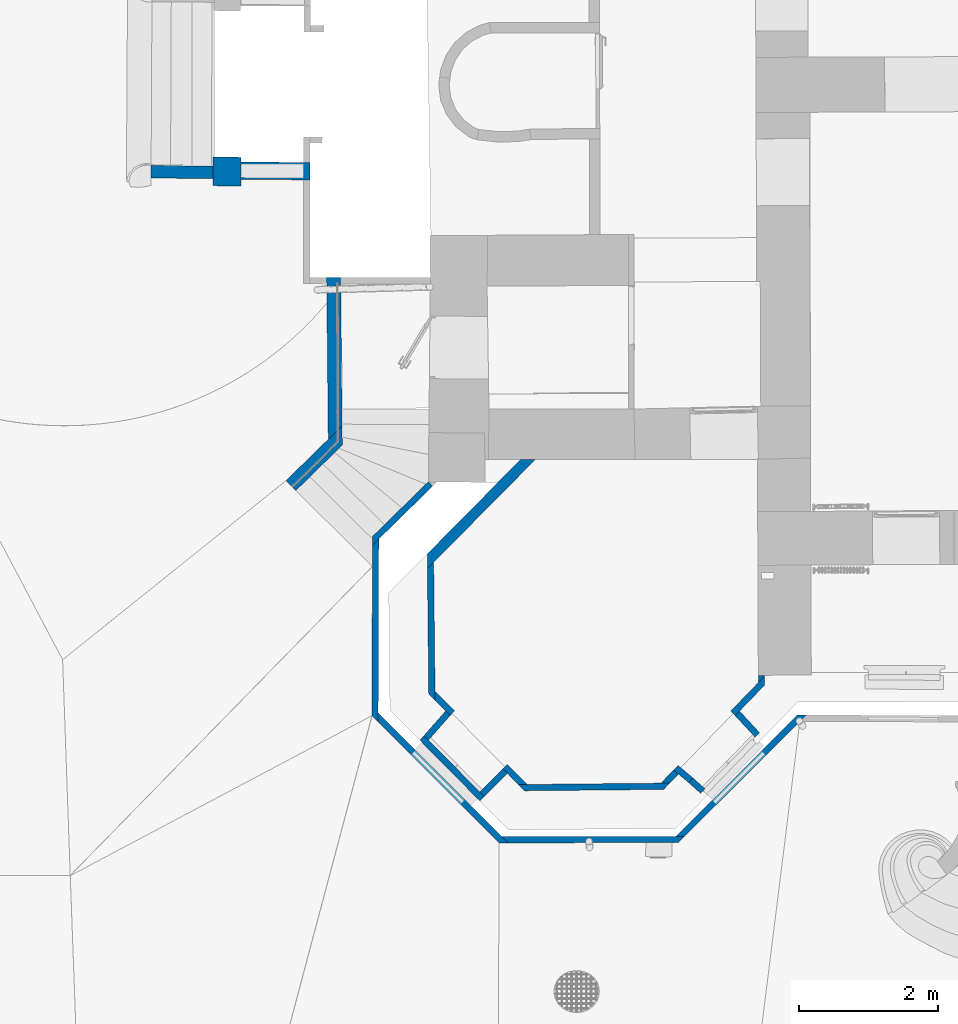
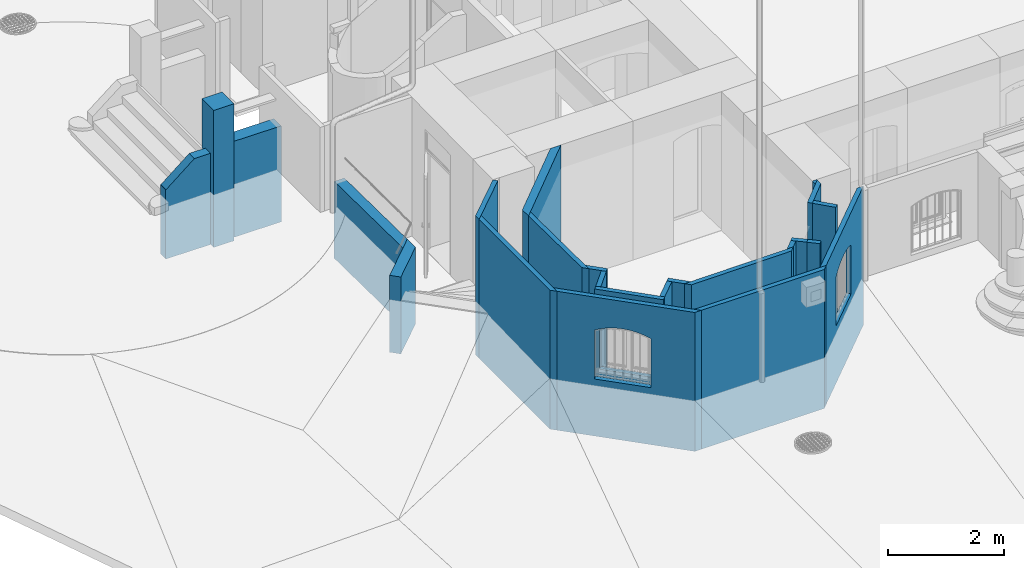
# One storey, part 9 of 133: 24 walls, 3 openings.
"""IFC2X3 building model written with IfcOpenShell, lengths in centimetres."""

import ifcopenshell
import ifcopenshell.guid

model = None  # the IFC model being written
_history = None  # IfcOwnerHistory: only IFC2X3 demands one
_inside = {}  # id of a spatial element -> (the spatial element, [elements in it])
_under = {}  # id of a project, library or spatial element -> (it, [spatial elements below it])
_declared = {}  # id of a project -> (the project, [libraries it declares])
_typed = {}  # id of a type object -> (the type object, [elements of that type])
_made_of = {}  # id of a material, layer set ... -> (it, [elements and type objects made of it])


def new_model(schema):
    """Start an empty IFC model of exactly this schema.

    Asked for "IFC4X3", IfcOpenShell would pick the latest addendum, in which some entities
    have other attributes; the version numbers below select the first issue.
    IFC2X3 requires an IfcOwnerHistory on every rooted entity: one is made here for all.
    """
    global model, _history
    if schema == "IFC4X3":
        model = ifcopenshell.file(schema_version=(4, 3, 0, 0))
    else:
        model = ifcopenshell.file(schema=schema)
    _inside.clear()
    _under.clear()
    _declared.clear()
    _typed.clear()
    _made_of.clear()
    _history = None
    if model.schema == "IFC2X3":
        org = make("IfcOrganization", Name="unknown")
        user = make(
            "IfcPersonAndOrganization",
            ThePerson=make("IfcPerson", FamilyName="unknown"),
            TheOrganization=org,
        )
        app = make(
            "IfcApplication",
            ApplicationDeveloper=org,
            Version="unknown",
            ApplicationFullName="unknown",
            ApplicationIdentifier="unknown",
        )
        _history = make(
            "IfcOwnerHistory",
            OwningUser=user,
            OwningApplication=app,
            ChangeAction="ADDED",
            CreationDate=0,
        )
    return model


def make(cls, **values):
    """One entity of the class cls with the attributes given. An attribute that is None is left unset."""
    return model.create_entity(
        cls, **{name: value for name, value in values.items() if value is not None}
    )


def entity(cls, *values):
    """Any entity or typed value of the class cls, its attributes in the order of the schema. None: left unset."""
    e = model.create_entity(cls)
    for i, value in enumerate(values):
        if value is not None:
            e[i] = value
    return e


def rooted(cls, **values):
    """An entity with a GlobalId (a new one), such as an element, a storey or a relation."""
    return make(cls, GlobalId=ifcopenshell.guid.new(), OwnerHistory=_history, **values)


def si_unit(unit_type, name, prefix=None):
    """IfcSIUnit, for example si_unit("LENGTHUNIT", "METRE", prefix="MILLI")."""
    return make("IfcSIUnit", UnitType=unit_type, Prefix=prefix, Name=name)


def converted_unit(unit_type, name, factor, base, dimensions=None, offset=None):
    """IfcConversionBasedUnit, such as the inch: factor (a typed value) times the base unit."""
    return make(
        "IfcConversionBasedUnit"
        if offset is None
        else "IfcConversionBasedUnitWithOffset",
        ConversionOffset=offset,
        Dimensions=None
        if dimensions is None
        else entity("IfcDimensionalExponents", *dimensions),
        UnitType=unit_type,
        Name=name,
        ConversionFactor=make(
            "IfcMeasureWithUnit", ValueComponent=factor, UnitComponent=base
        ),
    )


def assignment(units):
    """IfcUnitAssignment: the units of a project."""
    return None if units is None else make("IfcUnitAssignment", Units=units)


def point(xyz):
    """IfcCartesianPoint."""
    return None if xyz is None else make("IfcCartesianPoint", Coordinates=xyz)


def direction(xyz):
    """IfcDirection."""
    return None if xyz is None else make("IfcDirection", DirectionRatios=xyz)


def frame(location, z_axis=None, x_axis=None):
    """IfcAxis2Placement3D, a coordinate frame: its origin and axes. An axis left out is left unset."""
    return make(
        "IfcAxis2Placement3D",
        Location=point(location),
        Axis=direction(z_axis),
        RefDirection=direction(x_axis),
    )


def frame_2d(location, x_axis=None):
    """IfcAxis2Placement2D, a coordinate frame in the plane: its origin and x axis."""
    return make(
        "IfcAxis2Placement2D", Location=point(location), RefDirection=direction(x_axis)
    )


def origin():
    """The frame at (0, 0, 0) with its axes left unset."""
    return frame((0.0, 0.0, 0.0))


def origin_with_axes():
    """The frame at (0, 0, 0) with the z axis (0, 0, 1) and the x axis (1, 0, 0) written out."""
    return frame((0.0, 0.0, 0.0), z_axis=(0.0, 0.0, 1.0), x_axis=(1.0, 0.0, 0.0))


def origin_2d_with_axis():
    """The frame at (0, 0) in the plane with the x axis (1, 0) written out."""
    return frame_2d((0.0, 0.0), x_axis=(1.0, 0.0))


def place(relative_to, where):
    """IfcLocalPlacement: puts the frame where relative to a parent placement (None: the world)."""
    return make(
        "IfcLocalPlacement", PlacementRelTo=relative_to, RelativePlacement=where
    )


def context(
    kind, dimensions, precision=None, world=None, true_north=None, identifier=None
):
    """IfcGeometricRepresentationContext, for example the 3D "Model" context."""
    return make(
        "IfcGeometricRepresentationContext",
        ContextIdentifier=identifier,
        ContextType=kind,
        CoordinateSpaceDimension=dimensions,
        Precision=precision,
        WorldCoordinateSystem=world,
        TrueNorth=true_north,
    )


def subcontext(parent, identifier, kind, view, scale=None):
    """IfcGeometricRepresentationSubContext, for example "Body" below "Model"."""
    return make(
        "IfcGeometricRepresentationSubContext",
        ContextIdentifier=identifier,
        ContextType=kind,
        ParentContext=parent,
        TargetScale=scale,
        TargetView=view,
    )


def project(units=None, contexts=None):
    """IfcProject with its units and contexts."""
    return rooted(
        "IfcProject",
        Name="project",
        RepresentationContexts=contexts,
        UnitsInContext=assignment(units),
    )


def spatial(cls, under=None, at=None, **own):
    """A site, building, storey or space (cls), placed at a placement, below another one or the project."""
    s = rooted(cls, ObjectPlacement=at, **own)
    if under is not None:
        _under.setdefault(under.id(), (under, []))[1].append(s)
    return s


def polyline(points):
    """IfcPolyline through the points."""
    return make("IfcPolyline", Points=[point(p) for p in points])


def circle_curve(where, radius):
    """IfcCircle in the frame where."""
    return make("IfcCircle", Position=where, Radius=radius)


def trimmed(basis, trim1, trim2, sense, master):
    """IfcTrimmedCurve: the piece of a basis curve between two trims."""
    return make(
        "IfcTrimmedCurve",
        BasisCurve=basis,
        Trim1=trim1,
        Trim2=trim2,
        SenseAgreement=sense,
        MasterRepresentation=master,
    )


def segment(curve, same_sense, transition):
    """IfcCompositeCurveSegment."""
    return make(
        "IfcCompositeCurveSegment",
        Transition=transition,
        SameSense=same_sense,
        ParentCurve=curve,
    )


def composite_curve(segments, self_intersect=None):
    """IfcCompositeCurve: segments joined end to end."""
    return make("IfcCompositeCurve", Segments=segments, SelfIntersect=self_intersect)


def profile(cls, at=None, kind="AREA", **sizes):
    """A parametric profile (cls). Its sizes go by their IFC names, for example OverallWidth=200.0."""
    return make(cls, ProfileType=kind, Position=at, **sizes)


def rectangle(**sizes):
    """IfcRectangleProfileDef."""
    return profile("IfcRectangleProfileDef", **sizes)


def outline(outer, holes=None, kind="AREA"):
    """IfcArbitraryClosedProfileDef: a profile drawn as a closed curve; with holes, ...WithVoids."""
    if holes is None:
        return make("IfcArbitraryClosedProfileDef", ProfileType=kind, OuterCurve=outer)
    return make(
        "IfcArbitraryProfileDefWithVoids",
        ProfileType=kind,
        OuterCurve=outer,
        InnerCurves=holes,
    )


def extrude(swept, where, along, depth):
    """IfcExtrudedAreaSolid: the profile swept, set in the frame where, extruded along a direction by depth."""
    return make(
        "IfcExtrudedAreaSolid",
        SweptArea=swept,
        Position=where,
        ExtrudedDirection=direction(along),
        Depth=depth,
    )


def clip(a, b, op="DIFFERENCE"):
    """IfcBooleanClippingResult: the solid a cut by the half space b."""
    return make(
        "IfcBooleanClippingResult", Operator=op, FirstOperand=a, SecondOperand=b
    )


def bounded_halfspace(plane, agree, where, boundary):
    """IfcPolygonalBoundedHalfSpace: a half space limited to a polygon's prism."""
    return make(
        "IfcPolygonalBoundedHalfSpace",
        BaseSurface=make("IfcPlane", Position=plane),
        AgreementFlag=agree,
        Position=where,
        PolygonalBoundary=boundary,
    )


def shape(context_of_items, identifier, shape_type, items):
    """IfcShapeRepresentation: the items that make up one representation, for example the "Body"."""
    return make(
        "IfcShapeRepresentation",
        ContextOfItems=context_of_items,
        RepresentationIdentifier=identifier,
        RepresentationType=shape_type,
        Items=items,
    )


def material(Name=None, Category=None):
    """IfcMaterial."""
    return make("IfcMaterial", Name=Name, Category=Category)


def layer(
    of_material, thickness, ventilated=None, Name=None, Category=None, Priority=None
):
    """IfcMaterialLayer: one layer of a wall or slab, of a material (None: an air gap)."""
    return make(
        "IfcMaterialLayer",
        Material=of_material,
        LayerThickness=thickness,
        IsVentilated=ventilated,
        Name=Name,
        Category=Category,
        Priority=Priority,
    )


def layer_set(layers, Name=None):
    """IfcMaterialLayerSet."""
    return make("IfcMaterialLayerSet", MaterialLayers=layers, LayerSetName=Name)


def layer_usage(for_layer_set, set_direction, sense, offset, extent=None):
    """IfcMaterialLayerSetUsage: how a layer set lies in its element."""
    return make(
        "IfcMaterialLayerSetUsage",
        ForLayerSet=for_layer_set,
        LayerSetDirection=set_direction,
        DirectionSense=sense,
        OffsetFromReferenceLine=offset,
        ReferenceExtent=extent,
    )


def made_of(thing, what):
    """Note that an element or type object is made of a material, layer set ...; save() writes the relation."""
    if what is not None:
        _made_of.setdefault(what.id(), (what, []))[1].append(thing)
    return thing


def type_object(cls, material=None, **own):
    """A type object (cls), such as IfcWallType, which elements share."""
    return made_of(rooted(cls, **own), material)


def element(
    cls,
    number,
    at=None,
    inside=None,
    cuts=None,
    type_object=None,
    material=None,
    context=None,
    identifier="Body",
    shape_type=None,
    held_by="IfcProductDefinitionShape",
    body=None,
    shapes=None,
    **own,
):
    """One element of the class cls, such as IfcWall. Its Tag is "e" and its number.

    at: its placement. inside: the storey or other place that contains it. cuts: it is an
    opening in that element (IfcRelVoidsElement). A single representation is given by context,
    identifier, shape_type and body (its items); several are given by shapes. held_by: the class
    of the entity that holds the representations. save() writes the other relations.
    """
    e = rooted(cls, Tag="e%d" % number, ObjectPlacement=at, **own)
    if body is not None:
        shapes = [shape(context, identifier, shape_type, body)]
    if shapes is not None:
        e.Representation = make(held_by, Representations=shapes)
    if inside is not None:
        _inside.setdefault(inside.id(), (inside, []))[1].append(e)
    if cuts is not None:
        rooted(
            "IfcRelVoidsElement", RelatingBuildingElement=cuts, RelatedOpeningElement=e
        )
    if type_object is not None:
        _typed.setdefault(type_object.id(), (type_object, []))[1].append(e)
    return made_of(e, material)


def aggregate(whole, parts):
    """IfcRelAggregates: a whole, such as a stair, and the parts it consists of."""
    return rooted("IfcRelAggregates", RelatingObject=whole, RelatedObjects=parts)


def save(model, path):
    """Write the relations noted so far, then the file.

    IfcRelAggregates (storeys below a building ...), IfcRelContainedInSpatialStructure (elements
    in a storey), IfcRelDefinesByType, IfcRelAssociatesMaterial and IfcRelDeclares: one each for
    every whole, place, type object, material and project.
    """
    for whole, parts in _under.values():
        aggregate(whole, parts)
    for where, things in _inside.values():
        rooted(
            "IfcRelContainedInSpatialStructure",
            RelatedElements=things,
            RelatingStructure=where,
        )
    for kind, things in _typed.values():
        rooted("IfcRelDefinesByType", RelatedObjects=things, RelatingType=kind)
    for what, things in _made_of.values():
        rooted("IfcRelAssociatesMaterial", RelatedObjects=things, RelatingMaterial=what)
    for by, libraries in _declared.values():
        rooted("IfcRelDeclares", RelatingContext=by, RelatedDefinitions=libraries)
    model.write(path)


model = new_model("IFC2X3")

# Units and contexts
model_context = context("Model", 3, precision=0.0001, world=origin(), true_north=direction((0.225632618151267, 0.974212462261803, 0.0)))
body_context = subcontext(model_context, "Body", "Model", "MODEL_VIEW")
footprint_context = subcontext(model_context, "FootPrint", "Model", "MODEL_VIEW")
profile_context = subcontext(model_context, "Profile", "Model", "MODEL_VIEW")
ifc_project = project(units=[si_unit("LENGTHUNIT", "METRE", prefix="CENTI"), si_unit("AREAUNIT", "SQUARE_METRE", prefix="CENTI"), si_unit("VOLUMEUNIT", "CUBIC_METRE", prefix="CENTI"), converted_unit("PLANEANGLEUNIT", "DEGREE", entity("IfcRatioMeasure", 0.0174532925), si_unit("PLANEANGLEUNIT", "RADIAN"), dimensions=[0, 0, 0, 0, 0, 0, 0])], contexts=[model_context])

# Site, building, storey
site_placement = place(None, origin_with_axes())
site = spatial("IfcSite", under=ifc_project, at=site_placement, Name="Default Site", CompositionType="ELEMENT")
building_placement = place(site_placement, origin_with_axes())
building = spatial("IfcBuilding", under=site, at=building_placement, Name="Default Building", CompositionType="ELEMENT")
storey_placement = place(building_placement, frame((0.0, 0.0, -291.400371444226), z_axis=(0.0, 0.0, 1.0), x_axis=(1.0, 0.0, 0.0)))
storey = spatial("IfcBuildingStorey", under=building, at=storey_placement, Name="Rez-de-Jardin", CompositionType="ELEMENT", Elevation=-291.400371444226)

# Walls
ifc_material = material(Name="<aucun>")
ifc_layer_1 = layer(ifc_material, 25.0)
ifc_layer_set_1 = layer_set([ifc_layer_1], Name="default")
ifc_layer_usage_1 = layer_usage(ifc_layer_set_1, "AXIS2", "POSITIVE", -12.5)
wall_type_1 = type_object("IfcWallType", Name="default 250", PredefinedType="NOTDEFINED", material=ifc_layer_set_1)
wall_1_placement = place(storey_placement, frame((-1368.51239183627, -188.336100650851, -1.94511073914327e-11), z_axis=(0.0, 0.0, 1.0), x_axis=(-0.999984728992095, 0.0055264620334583, 0.0)))
element("IfcWallStandardCase", 1, at=wall_1_placement, inside=storey, type_object=wall_type_1, material=ifc_layer_usage_1, Name="Enveloppe 311643", context=body_context, shape_type="SweptSolid", body=[
    extrude(outline(polyline([(89.5219627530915, 12.5), (-9.01157871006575, 12.5), (-8.87378574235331, -12.5), (89.5219627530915, -12.5), (89.5219627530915, 12.5)])), frame((0.0, 0.0, 1.77635683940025e-13), z_axis=(0.0, 0.0, 1.0), x_axis=(1.0, 0.0, 0.0)), (0.0, 0.0, 1.0), 201.400371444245),
])
ifc_layer_2 = layer(ifc_material, 9.0)
ifc_layer_set_2 = layer_set([ifc_layer_2], Name="default")
ifc_layer_usage_2 = layer_usage(ifc_layer_set_2, "AXIS2", "POSITIVE", -4.5)
wall_type_2 = type_object("IfcWallType", Name="default 90", PredefinedType="NOTDEFINED", material=ifc_layer_set_2)
wall_2_placement = place(storey_placement, frame((-1155.4528827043, -965.435275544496, -1.94511073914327e-11), z_axis=(0.0, 0.0, 1.0), x_axis=(-0.702860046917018, 0.711328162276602, 0.0)))
element("IfcWallStandardCase", 2, at=wall_2_placement, inside=storey, type_object=wall_type_2, material=ifc_layer_usage_2, Name="Enveloppe 583646", context=body_context, shape_type="SweptSolid", body=[
    extrude(outline(polyline([(39.4833883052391, -4.4999999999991), (30.1770155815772, 4.50000000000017), (-0.604139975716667, 4.50000000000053), (0.000166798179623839, -4.49999999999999), (39.4833883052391, -4.4999999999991)])), frame((0.0, 0.0, 8.88178419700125e-14), z_axis=(0.0, 0.0, 1.0), x_axis=(1.0, 0.0, 0.0)), (0.0, 0.0, 1.0), 291.413221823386),
])
ifc_layer_usage_3 = layer_usage(ifc_layer_set_2, "AXIS2", "POSITIVE", -4.5)
wall_3_placement = place(storey_placement, frame((-1192.80429309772, -1001.31453889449, -1.94511073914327e-11), z_axis=(0.0, 0.0, 1.0), x_axis=(0.6626424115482, 0.748935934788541, 0.0)))
element("IfcWallStandardCase", 3, at=wall_3_placement, inside=storey, type_object=wall_type_2, material=ifc_layer_usage_3, Name="Enveloppe 583737", context=body_context, shape_type="SweptSolid", body=[
    extrude(outline(polyline([(1.77635683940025e-13, 4.49999999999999), (1.77635683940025e-13, -4.50000000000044), (47.0915342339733, -4.5000000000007), (47.6958410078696, 4.49999999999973), (1.77635683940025e-13, 4.49999999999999)])), frame((0.0, 0.0, 1.33226762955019e-13), z_axis=(0.0, 0.0, 1.0), x_axis=(1.0, 0.0, 0.0)), (0.0, 0.0, 1.0), 291.413221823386),
])
ifc_layer_usage_4 = layer_usage(ifc_layer_set_2, "AXIS2", "POSITIVE", -4.5)
wall_4_placement = place(storey_placement, frame((-1112.61900895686, -1081.96244786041, -1.94511073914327e-11), z_axis=(0.0, 0.0, 1.0), x_axis=(0.708538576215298, 0.705672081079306, 0.0)))
element("IfcWallStandardCase", 4, at=wall_4_placement, inside=storey, type_object=wall_type_2, material=ifc_layer_usage_4, Name="Enveloppe 584301", context=body_context, shape_type="SweptSolid", body=[
    extrude(outline(polyline([(1.77635683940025e-13, 4.50000000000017), (-0.0326793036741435, -4.49999999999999), (46.9158967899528, -4.49999999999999), (46.9515457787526, 4.50000000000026), (1.77635683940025e-13, 4.50000000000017)])), frame((0.0, 0.0, 8.88178419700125e-14), z_axis=(0.0, 0.0, 1.0), x_axis=(1.0, 0.0, 0.0)), (0.0, 0.0, 1.0), 291.413221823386),
])
ifc_layer_usage_5 = layer_usage(ifc_layer_set_2, "AXIS2", "POSITIVE", -4.5)
wall_5_placement = place(storey_placement, frame((-752.480776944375, -965.692787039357, -1.94511073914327e-11), z_axis=(0.0, 0.0, 1.0), x_axis=(0.695562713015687, 0.718465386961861, 0.0)))
element("IfcWallStandardCase", 5, at=wall_5_placement, inside=storey, type_object=wall_type_2, material=ifc_layer_usage_5, Name="Enveloppe 584799", context=body_context, shape_type="SweptSolid", body=[
    extrude(outline(polyline([(-0.0243408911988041, 4.49999999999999), (-0.519998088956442, -4.50000000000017), (60.355476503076, -4.50000000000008), (69.5770575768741, 4.50000000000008), (-0.0243408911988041, 4.49999999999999)])), frame((0.0, 0.0, 8.88178419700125e-14), z_axis=(0.0, 0.0, 1.0), x_axis=(1.0, 0.0, 0.0)), (0.0, 0.0, 1.0), 291.413221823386),
])

# Wall, opening
ifc_layer_usage_6 = layer_usage(ifc_layer_set_2, "AXIS2", "POSITIVE", -4.5)
wall_6_placement = place(storey_placement, frame((-1115.81903084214, -1085.14952359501, -1.94511073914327e-11), z_axis=(0.0, 0.0, 1.0), x_axis=(-0.703094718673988, 0.711096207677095, 0.0)))
wall_6 = element("IfcWallStandardCase", 6, at=wall_6_placement, inside=storey, type_object=wall_type_2, material=ifc_layer_usage_6, Name="Enveloppe 583738", context=body_context, shape_type="SweptSolid", body=[
    extrude(outline(polyline([(117.671423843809, 4.49999999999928), (-4.516369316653, 4.49999999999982), (-4.48369001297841, -4.50000000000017), (109.252681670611, -4.50000000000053), (118.232660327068, -3.90001389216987), (117.671423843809, 4.49999999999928)])), frame((0.0, 0.0, 8.88178419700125e-14), z_axis=(0.0, 0.0, 1.0), x_axis=(1.0, 0.0, 0.0)), (0.0, 0.0, 1.0), 291.413221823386),
])
opening_1_placement = place(wall_6_placement, frame((4.51636931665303, 4.54747350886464e-13, 127.806008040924), z_axis=(0.0, 0.0, 1.0), x_axis=(-1.0, 3.99680288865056e-15, 0.0)))
cartesian_point_1 = entity("IfcCartesianPoint", [0.0, 0.0, 97.0])
cartesian_point_2 = entity("IfcCartesianPoint", [-104.736312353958, 0.0, 97.0])
cartesian_point_3 = entity("IfcCartesianPoint", [-104.736312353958, -4.49999999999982])
element("IfcOpeningElement", 7, at=opening_1_placement, cuts=wall_6, Name="4294966467_12", ObjectType="Opening", shapes=[
    shape(body_context, "Body", "SweptSolid", [extrude(outline(composite_curve([segment(polyline([(0.0, 97.0), (0.0, -3.00000000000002), (104.736312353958, -3.00000000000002), (104.736312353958, 97.0)]), True, "CONTINUOUS"), segment(trimmed(circle_curve(frame_2d((52.3681561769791, -65.0141772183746), x_axis=(1.0, 0.0)), 170.267487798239), [point((104.736312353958, 97.0))], [point((0.0, 97.0))], True, "CARTESIAN"), True, "CONTINUOUS")], self_intersect=False)), frame((0.0, -14.5000000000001, 0.0), z_axis=(0.0, 1.0, 0.0), x_axis=(-1.0, 0.0, 0.0)), (0.0, 0.0, 1.0), 29.0000000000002)]),
    shape(profile_context, "Profile", "GeometricCurveSet", [entity("IfcGeometricCurveSet", [entity("IfcCompositeCurve", [entity("IfcCompositeCurveSegment", "CONTINUOUS", True, entity("IfcPolyline", [cartesian_point_1, entity("IfcCartesianPoint", [0.0, 0.0, -2.22044604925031e-14]), entity("IfcCartesianPoint", [-104.736312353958, 0.0, -2.22044604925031e-14]), cartesian_point_2])), entity("IfcCompositeCurveSegment", "CONTINUOUS", True, entity("IfcTrimmedCurve", entity("IfcCircle", entity("IfcAxis2Placement3D", entity("IfcCartesianPoint", [-52.3681561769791, 0.0, -65.0141772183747]), entity("IfcDirection", [0.0, 1.0, 0.0]), entity("IfcDirection", [1.0, 0.0, 0.0])), 170.267487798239), [cartesian_point_2], [cartesian_point_1], True, "CARTESIAN"))], False)])]),
    shape(footprint_context, "FootPrint", "GeometricCurveSet", [entity("IfcGeometricCurveSet", [entity("IfcPolyline", [cartesian_point_3, entity("IfcCartesianPoint", [0.0, -4.49999999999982]), entity("IfcCartesianPoint", [8.88178419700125e-14, 4.50000000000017]), entity("IfcCartesianPoint", [-104.736312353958, 4.50000000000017]), cartesian_point_3])])]),
])

# Walls
ifc_layer_usage_7 = layer_usage(ifc_layer_set_2, "AXIS2", "POSITIVE", -4.5)
wall_7_placement = place(storey_placement, frame((-1050.93874594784, -1071.20860717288, -1.94511073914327e-11), z_axis=(0.0, 0.0, 1.0), x_axis=(-0.702860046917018, 0.711328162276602, 0.0)))
element("IfcWallStandardCase", 8, at=wall_7_placement, inside=storey, type_object=wall_type_2, material=ifc_layer_usage_7, Name="Enveloppe 583999", context=body_context, shape_type="SweptSolid", body=[
    extrude(outline(polyline([(40.3890210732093, 4.49999999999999), (8.78333523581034, 4.49999999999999), (0.063029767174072, -4.49999999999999), (40.424670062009, -4.49999999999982), (40.3890210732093, 4.49999999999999)])), frame((0.0, 0.0, 8.88178419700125e-14), z_axis=(0.0, 0.0, 1.0), x_axis=(1.0, 0.0, 0.0)), (0.0, 0.0, 1.0), 291.413221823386),
])
ifc_layer_usage_8 = layer_usage(ifc_layer_set_2, "AXIS2", "POSITIVE", -4.5)
wall_8_placement = place(storey_placement, frame((-813.166615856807, -1061.99418023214, -1.94511073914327e-11), z_axis=(0.0, 0.0, 1.0), x_axis=(-0.763639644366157, 0.645642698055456, 0.0)))
element("IfcWallStandardCase", 9, at=wall_8_placement, inside=storey, type_object=wall_type_2, material=ifc_layer_usage_8, Name="Enveloppe 585409", context=body_context, shape_type="SweptSolid", body=[
    extrude(outline(polyline([(28.2498008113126, 4.50000000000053), (0.134469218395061, 4.50000000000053), (-0.134409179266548, -4.49598268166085), (27.6428392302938, -4.49999999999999), (28.2498008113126, 4.50000000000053)])), frame((0.0, 0.0, 4.44089209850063e-14), z_axis=(0.0, 0.0, 1.0), x_axis=(1.0, 0.0, 0.0)), (0.0, 0.0, 1.0), 291.413221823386),
])
ifc_layer_usage_9 = layer_usage(ifc_layer_set_2, "AXIS2", "POSITIVE", -4.5)
wall_9_placement = place(storey_placement, frame((-852.736815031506, -1069.2499384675, -1.94511073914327e-11), z_axis=(0.0, 0.0, 1.0), x_axis=(0.695562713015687, 0.718465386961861, 0.0)))
element("IfcWallStandardCase", 10, at=wall_9_placement, inside=storey, type_object=wall_type_2, material=ifc_layer_usage_9, Name="Enveloppe 585672", context=body_context, shape_type="SweptSolid", body=[
    extrude(outline(polyline([(-0.00309921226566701, 4.4999999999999), (8.88241923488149, -4.49999999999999), (26.9528727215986, -4.50000000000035), (26.3459111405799, 4.49999999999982), (-0.00309921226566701, 4.4999999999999)])), frame((0.0, 0.0, 8.88178419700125e-14), z_axis=(0.0, 0.0, 1.0), x_axis=(1.0, 0.0, 0.0)), (0.0, 0.0, 1.0), 291.413221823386),
])
ifc_layer_usage_10 = layer_usage(ifc_layer_set_2, "AXIS2", "POSITIVE", -4.5)
wall_10_placement = place(storey_placement, frame((-717.753235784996, -997.001121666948, -1.94511073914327e-11), z_axis=(0.0, 0.0, 1.0), x_axis=(-0.679129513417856, 0.734018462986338, 0.0)))
element("IfcWallStandardCase", 11, at=wall_10_placement, inside=storey, type_object=wall_type_2, material=ifc_layer_usage_10, Name="Enveloppe 585148", context=body_context, shape_type="SweptSolid", body=[
    extrude(outline(polyline([(42.0436081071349, 4.49999999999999), (1.77635683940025e-13, 4.50000000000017), (3.5527136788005e-13, -4.50000000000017), (42.5392653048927, -4.50000000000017), (42.0436081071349, 4.49999999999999)])), frame((0.0, 0.0, 1.33226762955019e-13), z_axis=(0.0, 0.0, 1.0), x_axis=(1.0, 0.0, 0.0)), (0.0, 0.0, 1.0), 291.413221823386),
])
ifc_layer_usage_11 = layer_usage(ifc_layer_set_2, "AXIS2", "POSITIVE", -4.5)
wall_11_placement = place(storey_placement, frame((-795.835195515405, -1077.56160387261, -1.94511073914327e-11), z_axis=(0.0, 0.0, 1.0), x_axis=(-0.74400996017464, 0.668168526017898, 0.0)))
element("IfcWallStandardCase", 12, at=wall_11_placement, inside=storey, type_object=wall_type_2, material=ifc_layer_usage_11, Name="Enveloppe 585673", context=body_context, shape_type="SweptSolid", body=[
    extrude(outline(polyline([(23.2963818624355, 4.50000000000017), (0.336007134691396, 4.50000000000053), (-1.77635683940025e-13, -4.50000000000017), (23.2963818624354, -4.50000000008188), (23.2963818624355, 4.50000000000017)])), frame((0.0, 0.0, 8.88178419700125e-14), z_axis=(0.0, 0.0, 1.0), x_axis=(1.0, 0.0, 0.0)), (0.0, 0.0, 1.0), 291.413221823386),
])
ifc_layer_usage_12 = layer_usage(ifc_layer_set_2, "AXIS2", "POSITIVE", -4.5)
wall_12_placement = place(storey_placement, frame((-711.72941276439, -934.699164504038, -1.94511073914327e-11), z_axis=(0.0, 0.0, 1.0), x_axis=(-0.0040355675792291, 0.999991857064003, 0.0)))
element("IfcWallStandardCase", 13, at=wall_12_placement, inside=storey, type_object=wall_type_2, material=ifc_layer_usage_12, Name="Enveloppe 587913", context=body_context, shape_type="SweptSolid", body=[
    extrude(outline(polyline([(23.300431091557, 4.50000000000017), (12.8855561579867, 4.50000000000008), (22.1071372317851, -4.49999999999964), (23.3004310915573, -4.49999999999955), (23.300431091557, 4.50000000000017)])), frame((0.0, 0.0, 8.88178419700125e-14), z_axis=(0.0, 0.0, 1.0), x_axis=(1.0, 0.0, 0.0)), (0.0, 0.0, 1.0), 291.413221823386),
])
ifc_layer_usage_13 = layer_usage(ifc_layer_set_2, "AXIS2", "POSITIVE", -4.5)
wall_13_placement = place(storey_placement, frame((-1047.69413742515, -1072.5002566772, -1.94511073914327e-11), z_axis=(0.0, 0.0, 1.0), x_axis=(0.999952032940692, 0.00979447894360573, 0.0)))
element("IfcWallStandardCase", 14, at=wall_13_placement, inside=storey, type_object=wall_type_2, material=ifc_layer_usage_13, Name="Enveloppe 71423", context=body_context, shape_type="SweptSolid", body=[
    extrude(outline(polyline([(-12.5755687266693, 4.49999999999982), (-3.85526325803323, -4.49999999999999), (195.537058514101, -4.49999999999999), (204.422576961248, 4.49999999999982), (-12.5755687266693, 4.49999999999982)])), origin_with_axes(), (0.0, 0.0, 1.0), 291.413221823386),
])
ifc_layer_usage_14 = layer_usage(ifc_layer_set_2, "AXIS2", "POSITIVE", -4.5)
wall_14_placement = place(storey_placement, frame((-1184.50294680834, -934.234696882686, -1.94511073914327e-11), z_axis=(0.0, 0.0, 1.0), x_axis=(-0.0107461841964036, 0.999942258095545, 0.0)))
element("IfcWallStandardCase", 15, at=wall_14_placement, inside=storey, type_object=wall_type_2, material=ifc_layer_usage_14, Name="Enveloppe 71409", context=body_context, shape_type="SweptSolid", body=[
    extrude(outline(polyline([(175.918094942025, 4.49999999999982), (-3.64042051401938, 4.50000000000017), (-12.9467932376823, -4.50000000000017), (184.823272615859, -4.5000000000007), (175.918094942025, 4.49999999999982)])), frame((0.0, 0.0, 8.88178419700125e-14), z_axis=(0.0, 0.0, 1.0), x_axis=(1.0, 0.0, 0.0)), (0.0, 0.0, 1.0), 291.413221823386),
])
ifc_layer_3 = layer(ifc_material, 15.0)
ifc_layer_set_3 = layer_set([ifc_layer_3], Name="default")
ifc_layer_usage_15 = layer_usage(ifc_layer_set_3, "AXIS2", "POSITIVE", -7.5)
wall_type_3 = type_object("IfcWallType", Name="default 150", PredefinedType="NOTDEFINED", material=ifc_layer_set_3)
wall_15_placement = place(storey_placement, frame((-1187.31938654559, -744.097306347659, -1.94511073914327e-11), z_axis=(0.0, 0.0, 1.0), x_axis=(0.703242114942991, 0.71095043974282, 0.0)))
element("IfcWallStandardCase", 16, at=wall_15_placement, inside=storey, type_object=wall_type_3, material=ifc_layer_usage_15, Name="Enveloppe 71394", context=body_context, shape_type="SweptSolid", body=[
    extrude(outline(polyline([(2.17793601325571, 7.50000000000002), (-12.664026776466, -7.50000000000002), (207.473060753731, -7.49999999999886), (192.678701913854, 7.50000000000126), (2.17793601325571, 7.50000000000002)])), frame((0.0, 0.0, 1.33226762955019e-13), z_axis=(0.0, 0.0, 1.0), x_axis=(1.0, 0.0, 0.0)), (0.0, 0.0, 1.0), 291.413221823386),
])
ifc_layer_4 = layer(ifc_material, 20.0)
ifc_layer_set_4 = layer_set([ifc_layer_4], Name="default")
ifc_layer_usage_16 = layer_usage(ifc_layer_set_4, "AXIS2", "POSITIVE", -10.0)
wall_type_4 = type_object("IfcWallType", Name="default 200", PredefinedType="NOTDEFINED", material=ifc_layer_set_4)
wall_16_placement = place(storey_placement, frame((-1386.55697982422, -639.304594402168, -1.94511073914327e-11), z_axis=(0.0, 0.0, 1.0), x_axis=(0.714638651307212, 0.699493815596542, 0.0)))
element("IfcWallStandardCase", 17, at=wall_16_placement, inside=storey, type_object=wall_type_4, material=ifc_layer_usage_16, Name="Enveloppe 92396", context=body_context, shape_type="SweptSolid", body=[
    extrude(outline(polyline([(0.0, 9.99999999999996), (0.0, -10.0000000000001), (93.2388021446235, -9.9999999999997), (112.427461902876, 10.0000000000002), (0.0, 9.99999999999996)])), frame((0.0, 0.0, 8.88178419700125e-14), z_axis=(0.0, 0.0, 1.0), x_axis=(1.0, 0.0, 0.0)), (0.0, 0.0, 1.0), 161.400371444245),
])
ifc_layer_usage_17 = layer_usage(ifc_layer_set_4, "AXIS2", "POSITIVE", -10.0)
wall_17_placement = place(storey_placement, frame((-1322.92950087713, -581.329911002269, -1.94511073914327e-11), z_axis=(0.0, 0.0, 1.0), x_axis=(-0.00999110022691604, 0.99995008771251, 0.0)))
element("IfcWallStandardCase", 18, at=wall_17_placement, inside=storey, type_object=wall_type_4, material=ifc_layer_usage_17, Name="Enveloppe 92405", context=body_context, shape_type="SweptSolid", body=[
    extrude(outline(polyline([(240.591841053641, 10.0000000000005), (8.52683000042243, 9.99999999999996), (27.7154897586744, -9.99999999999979), (240.355898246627, -9.99999999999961), (240.591841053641, 10.0000000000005)])), frame((0.0, 0.0, 4.44089209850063e-14), z_axis=(0.0, 0.0, 1.0), x_axis=(1.0, 0.0, 0.0)), (0.0, 0.0, 1.0), 161.400371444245),
])
ifc_layer_usage_18 = layer_usage(ifc_layer_set_2, "AXIS2", "POSITIVE", -4.5)
wall_type_5 = type_object("IfcWallType", Name="default 90", PredefinedType="NOTDEFINED", material=ifc_layer_set_2)
wall_18_placement = place(storey_placement, frame((-1088.05637907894, -1147.21000452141, -1.94511073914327e-11), z_axis=(0.0, 0.0, 1.0), x_axis=(0.999998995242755, 0.00141757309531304, 0.0)))
element("IfcWallStandardCase", 19, at=wall_18_placement, inside=storey, type_object=wall_type_5, material=ifc_layer_usage_18, Name="Enveloppe 351360", context=body_context, shape_type="SweptSolid", body=[
    extrude(outline(polyline([(3.73121007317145, 4.49999999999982), (12.7035241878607, -4.49999999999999), (257.024615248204, -4.49999999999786), (266.062243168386, 4.50000000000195), (33.3168177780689, 4.50000000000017), (3.73121007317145, 4.49999999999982)])), frame((0.0, 0.0, 8.88178419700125e-14), z_axis=(0.0, 0.0, 1.0), x_axis=(1.0, 0.0, 0.0)), (0.0, 0.0, 1.0), 291.413221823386),
])

# Wall, opening
ifc_layer_usage_19 = layer_usage(ifc_layer_set_2, "AXIS2", "POSITIVE", -4.5)
wall_19_placement = place(storey_placement, frame((-834.209852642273, -1148.16589303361, -1.94511073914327e-11), z_axis=(0.0, 0.0, 1.0), x_axis=(0.707579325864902, 0.706633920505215, 0.0)))
wall_19 = element("IfcWallStandardCase", 20, at=wall_19_placement, inside=storey, type_object=wall_type_5, material=ifc_layer_usage_19, Name="Enveloppe 351445", context=body_context, shape_type="SweptSolid", body=[
    extrude(outline(polyline([(3.72308646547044, 4.49999999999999), (12.7607143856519, -4.50000000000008), (258.948155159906, -4.49999999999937), (250.013154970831, 4.50000000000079), (3.72308646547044, 4.49999999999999)])), frame((0.0, 0.0, 4.44089209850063e-14), z_axis=(0.0, 0.0, 1.0), x_axis=(1.0, 0.0, 0.0)), (0.0, 0.0, 1.0), 291.413221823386),
])
opening_2_placement = place(wall_19_placement, frame((77.0248232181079, 1.13686837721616e-13, 120.150702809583), z_axis=(0.0, 0.0, 1.0), x_axis=(-1.0, -2.1094237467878e-15, 0.0)))
cartesian_point_4 = entity("IfcCartesianPoint", [0.0, 0.0, 102.580862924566])
cartesian_point_5 = entity("IfcCartesianPoint", [-100.55276674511, 0.0, 102.580862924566])
cartesian_point_6 = entity("IfcCartesianPoint", [-100.55276674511, -4.49999999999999])
element("IfcOpeningElement", 21, at=opening_2_placement, cuts=wall_19, Name="4294966555_12", ObjectType="Opening", shapes=[
    shape(body_context, "Body", "SweptSolid", [extrude(outline(composite_curve([segment(polyline([(-1.77635683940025e-13, 102.580862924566), (-1.77635683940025e-13, 0.0), (100.55276674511, 0.0), (100.55276674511, 102.580862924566)]), True, "CONTINUOUS"), segment(trimmed(circle_curve(frame_2d((50.2763833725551, -0.486704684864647), x_axis=(1.0, 0.0)), 114.67623214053), [point((100.55276674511, 102.580862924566))], [point((-1.77635683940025e-13, 102.580862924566))], True, "CARTESIAN"), True, "CONTINUOUS")], self_intersect=False)), frame((0.0, -14.5, 0.0), z_axis=(0.0, 1.0, 0.0), x_axis=(-1.0, 0.0, 0.0)), (0.0, 0.0, 1.0), 29.0)]),
    shape(profile_context, "Profile", "GeometricCurveSet", [entity("IfcGeometricCurveSet", [entity("IfcCompositeCurve", [entity("IfcCompositeCurveSegment", "CONTINUOUS", True, entity("IfcPolyline", [cartesian_point_4, entity("IfcCartesianPoint", [0.0, 0.0, 0.0]), entity("IfcCartesianPoint", [-100.55276674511, 0.0, 0.0]), cartesian_point_5])), entity("IfcCompositeCurveSegment", "CONTINUOUS", True, entity("IfcTrimmedCurve", entity("IfcCircle", entity("IfcAxis2Placement3D", entity("IfcCartesianPoint", [-50.2763833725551, 0.0, -0.486704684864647]), entity("IfcDirection", [0.0, 1.0, 0.0]), entity("IfcDirection", [1.0, 0.0, 0.0])), 114.67623214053), [cartesian_point_5], [cartesian_point_4], True, "CARTESIAN"))], False)])]),
    shape(footprint_context, "FootPrint", "GeometricCurveSet", [entity("IfcGeometricCurveSet", [entity("IfcPolyline", [cartesian_point_6, entity("IfcCartesianPoint", [1.77635683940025e-13, -4.50000000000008]), entity("IfcCartesianPoint", [1.77635683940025e-13, 4.50000000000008]), entity("IfcCartesianPoint", [-100.55276674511, 4.50000000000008]), cartesian_point_6])])]),
])

# Wall
ifc_layer_usage_20 = layer_usage(ifc_layer_set_2, "AXIS2", "POSITIVE", -4.5)
wall_20_placement = place(storey_placement, frame((-1265.96619001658, -969.264132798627, -1.94511073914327e-11), z_axis=(0.0, 0.0, 1.0), x_axis=(0.00329246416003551, 0.999994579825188, 0.0)))
element("IfcWallStandardCase", 22, at=wall_20_placement, inside=storey, type_object=wall_type_5, material=ifc_layer_usage_20, Name="Enveloppe 351190", context=body_context, shape_type="SweptSolid", body=[
    extrude(outline(polyline([(-0.00450379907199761, 4.49999999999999), (-8.9476315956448, -4.49999999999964), (253.238956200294, -4.50000000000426), (244.357343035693, 4.49999999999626), (-0.00450379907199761, 4.49999999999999)])), frame((0.0, 0.0, 1.33226762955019e-13), z_axis=(0.0, 0.0, 1.0), x_axis=(1.0, 0.0, 0.0)), (0.0, 0.0, 1.0), 291.413221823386),
])

# Wall, opening
ifc_layer_usage_21 = layer_usage(ifc_layer_set_2, "AXIS2", "POSITIVE", -4.5)
wall_21_placement = place(storey_placement, frame((-1084.86977433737, -1148.53110826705, -1.94511073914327e-11), z_axis=(0.0, 0.0, 1.0), x_axis=(-0.707019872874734, 0.707193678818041, 0.0)))
wall_21 = element("IfcWallStandardCase", 23, at=wall_21_placement, inside=storey, type_object=wall_type_5, material=ifc_layer_usage_21, Name="Enveloppe 351275", context=body_context, shape_type="SweptSolid", body=[
    extrude(outline(polyline([(245.316341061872, 4.50000000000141), (0.00380495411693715, 4.49999999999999), (-8.9685091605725, -4.49999999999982), (254.259468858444, -4.49999999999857), (245.316341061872, 4.50000000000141)])), frame((0.0, 0.0, 8.88178419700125e-14), z_axis=(0.0, 0.0, 1.0), x_axis=(1.0, 0.0, 0.0)), (0.0, 0.0, 1.0), 291.413221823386),
])
opening_3_placement = place(wall_21_placement, frame((78.2656030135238, 2.27373675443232e-13, 119.574689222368), z_axis=(0.0, 0.0, 1.0), x_axis=(-1.0, -4.71844785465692e-15, 0.0)))
cartesian_point_7 = entity("IfcCartesianPoint", [-8.88178419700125e-14, -3.5527136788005e-13, 102.580862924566])
cartesian_point_8 = entity("IfcCartesianPoint", [-100.65652472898, -1.77635683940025e-13, 102.580862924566])
cartesian_point_9 = entity("IfcCartesianPoint", [-100.65652472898, -4.50000000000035])
element("IfcOpeningElement", 24, at=opening_3_placement, cuts=wall_21, Name="4294966551_12", ObjectType="Opening", shapes=[
    shape(body_context, "Body", "SweptSolid", [extrude(outline(composite_curve([segment(polyline([(0.0, 102.580862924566), (0.0, -2.22044604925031e-14), (100.65652472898, -2.22044604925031e-14), (100.65652472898, 102.580862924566)]), True, "CONTINUOUS"), segment(trimmed(circle_curve(frame_2d((50.3282623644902, -0.593057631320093), x_axis=(1.0, 0.0)), 114.794563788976), [point((100.65652472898, 102.580862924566))], [point((0.0, 102.580862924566))], True, "CARTESIAN"), True, "CONTINUOUS")], self_intersect=False)), frame((0.0, -14.5, 0.0), z_axis=(0.0, 1.0, 0.0), x_axis=(-1.0, 0.0, 0.0)), (0.0, 0.0, 1.0), 29.0)]),
    shape(profile_context, "Profile", "GeometricCurveSet", [entity("IfcGeometricCurveSet", [entity("IfcCompositeCurve", [entity("IfcCompositeCurveSegment", "CONTINUOUS", True, entity("IfcPolyline", [cartesian_point_7, entity("IfcCartesianPoint", [-8.88178419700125e-14, -3.5527136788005e-13, -2.22044604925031e-14]), entity("IfcCartesianPoint", [-100.65652472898, -1.77635683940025e-13, -2.22044604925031e-14]), cartesian_point_8])), entity("IfcCompositeCurveSegment", "CONTINUOUS", True, entity("IfcTrimmedCurve", entity("IfcCircle", entity("IfcAxis2Placement3D", entity("IfcCartesianPoint", [-50.3282623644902, -1.77635683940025e-13, -0.593057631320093]), entity("IfcDirection", [1.76477068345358e-15, 1.0, -7.64310892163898e-15]), entity("IfcDirection", [1.0, -1.76477068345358e-15, 0.0])), 114.794563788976), [cartesian_point_8], [cartesian_point_7], True, "CARTESIAN"))], False)])]),
    shape(footprint_context, "FootPrint", "GeometricCurveSet", [entity("IfcGeometricCurveSet", [entity("IfcPolyline", [cartesian_point_9, entity("IfcCartesianPoint", [0.0, -4.50000000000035]), entity("IfcCartesianPoint", [8.88178419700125e-14, 4.49999999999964]), entity("IfcCartesianPoint", [-100.65652472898, 4.49999999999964]), cartesian_point_9])])]),
])

# Walls
ifc_layer_usage_22 = layer_usage(ifc_layer_set_2, "AXIS2", "POSITIVE", -4.5)
wall_type_6 = type_object("IfcWallType", Name="default 90", PredefinedType="NOTDEFINED", material=ifc_layer_set_2)
wall_22_placement = place(storey_placement, frame((-1266.46934480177, -715.461883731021, -1.94511073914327e-11), z_axis=(0.0, 0.0, 1.0), x_axis=(0.714081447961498, 0.700062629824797, 0.0)))
element("IfcWallStandardCase", 25, at=wall_22_placement, inside=storey, type_object=wall_type_6, material=ifc_layer_usage_22, Name="Enveloppe 351105", context=body_context, shape_type="SweptSolid", body=[
    extrude(outline(polyline([(-8.88213085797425, -4.4999999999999), (112.017402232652, -4.49999999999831), (112.017402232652, 4.50000000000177), (-0.000517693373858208, 4.50000000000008), (-8.88213085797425, -4.4999999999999)])), frame((0.0, 0.0, 8.88178419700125e-14), z_axis=(0.0, 0.0, 1.0), x_axis=(1.0, 0.0, 0.0)), (0.0, 0.0, 1.0), 291.413221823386),
])
ifc_layer_5 = layer(ifc_material, 18.0)
ifc_layer_set_5 = layer_set([ifc_layer_5], Name="default")
ifc_layer_usage_23 = layer_usage(ifc_layer_set_5, "AXIS2", "POSITIVE", -9.0)
wall_type_7 = type_object("IfcWallType", Name="default 180", PredefinedType="NOTDEFINED", material=ifc_layer_set_5)
wall_23_placement = place(storey_placement, frame((-1498.54369247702, -190.019354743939, -1.94511073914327e-11), z_axis=(0.0, 0.0, 1.0), x_axis=(-0.999965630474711, 0.00829083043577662, 0.0)))
element("IfcWallStandardCase", 26, at=wall_23_placement, inside=storey, type_object=wall_type_7, material=ifc_layer_usage_23, Name="Enveloppe 320194", context=body_context, shape_type="Clipping", body=[
    clip(clip(extrude(rectangle(XDim=18.0, YDim=88.6324900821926, at=origin_2d_with_axis()), frame((44.3440198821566, -2.66453525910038e-13, 4.44089209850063e-14), z_axis=(0.0, 0.0, 1.0), x_axis=(-9.85843351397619e-15, -1.0, 0.0)), (0.0, 0.0, 1.0), 191.400371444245), bounded_halfspace(frame((88.277606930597, 8.9999999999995, 145.11174672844), z_axis=(0.0, 0.0, -1.0), x_axis=(-9.85843351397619e-15, -1.0, 0.0)), True, frame((88.277606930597, 8.9999999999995, 145.11174672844), z_axis=(0.0, 0.0, 1.0), x_axis=(1.0, 0.0, 0.0)), polyline([(-1.77635683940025e-13, -18.0), (0.382657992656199, -18.0), (0.382657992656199, 4.44089209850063e-14), (0.0, 0.0), (-1.77635683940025e-13, -18.0)]))), bounded_halfspace(frame((32.0036235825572, -9.00000000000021, 191.400371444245), z_axis=(-0.635260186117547, 3.50934559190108e-15, -0.772298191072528), x_axis=(0.772298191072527, -4.24573570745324e-15, -0.635260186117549)), True, frame((32.0036235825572, -9.00000000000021, 191.400371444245), z_axis=(0.0, 0.0, 1.0), x_axis=(1.0, 0.0, 0.0)), polyline([(1.77635683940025e-13, 2.22044604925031e-14), (56.2739833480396, -2.88657986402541e-13), (56.2739833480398, 17.9999999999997), (5.32907051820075e-13, 18.0000000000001), (1.77635683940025e-13, 2.22044604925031e-14)]))),
])
ifc_layer_6 = layer(ifc_material, 41.0)
ifc_layer_set_6 = layer_set([ifc_layer_6], Name="default")
ifc_layer_usage_24 = layer_usage(ifc_layer_set_6, "AXIS2", "POSITIVE", -20.5)
wall_type_8 = type_object("IfcWallType", Name="default 410", PredefinedType="NOTDEFINED", material=ifc_layer_set_6)
wall_24_placement = place(storey_placement, frame((-1458.122298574, -188.990187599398, -1.94511073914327e-11), z_axis=(0.0, 0.0, 1.0), x_axis=(-0.999990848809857, 0.00427811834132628, 0.0)))
element("IfcWallStandardCase", 27, at=wall_24_placement, inside=storey, type_object=wall_type_8, material=ifc_layer_usage_24, Name="Enveloppe 311246", context=body_context, shape_type="Clipping", body=[
    clip(clip(extrude(outline(polyline([(40.4805107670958, 10.2019013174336), (40.3805040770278, 10.2014734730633), (40.380500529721, 20.4999999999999), (0.0, 20.4999999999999), (-1.77635683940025e-13, 11.3507061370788), (-0.0687909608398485, 11.3507920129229), (-0.099997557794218, -13.6497411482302), (-3.5527136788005e-13, -13.6493133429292), (-1.77635683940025e-13, -20.5), (40.3805005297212, -20.5000000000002), (40.380501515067, -7.79807260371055), (40.4082806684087, -7.79795376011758), (40.4805107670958, 10.2019013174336)])), frame((0.0, 0.0, 8.88178419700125e-14), z_axis=(0.0, 0.0, 1.0), x_axis=(1.0, 0.0, 0.0)), (0.0, 0.0, 1.0), 287.400371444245), bounded_halfspace(frame((40.4082806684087, -7.79795376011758, 191.400371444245), z_axis=(0.0, 0.0, -1.0), x_axis=(0.00401278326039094, 0.999991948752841, 0.0)), True, frame((40.4082806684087, -7.79795376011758, 191.400371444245), z_axis=(0.0, 0.0, 1.0), x_axis=(1.0, 0.0, 0.0)), polyline([(-0.0277801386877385, 0.000111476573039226), (-1.77635683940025e-13, -2.22044604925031e-14), (0.072230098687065, 17.9998550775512), (-0.0277801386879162, 18.0002564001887), (-0.0277801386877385, 0.000111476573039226)]))), bounded_halfspace(frame((-0.0687909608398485, 11.3507920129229, 201.400371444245), z_axis=(0.0, 0.0, -1.0), x_axis=(-0.00124835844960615, -0.999999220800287, 0.0)), True, frame((-0.0687909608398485, 11.3507920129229, 201.400371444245), z_axis=(0.0, 0.0, 1.0), x_axis=(1.0, 0.0, 0.0)), polyline([(-0.0312089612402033, -24.9999805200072), (0.0687909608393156, -25.0001053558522), (0.0687909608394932, -8.58758442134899e-05), (0.0, -4.44089209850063e-14), (-0.0312089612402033, -24.9999805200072)]))),
])

save(model, "model.ifc")
